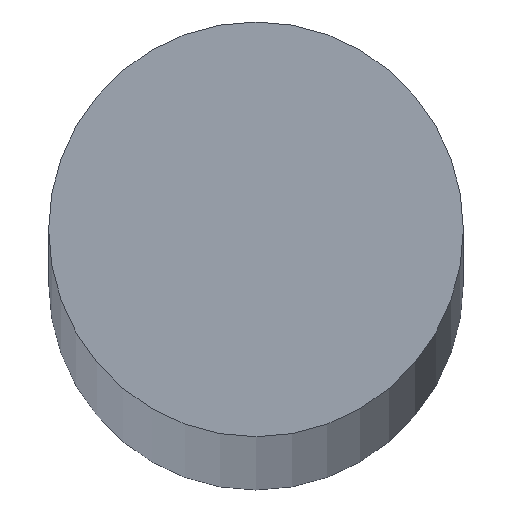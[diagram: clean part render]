
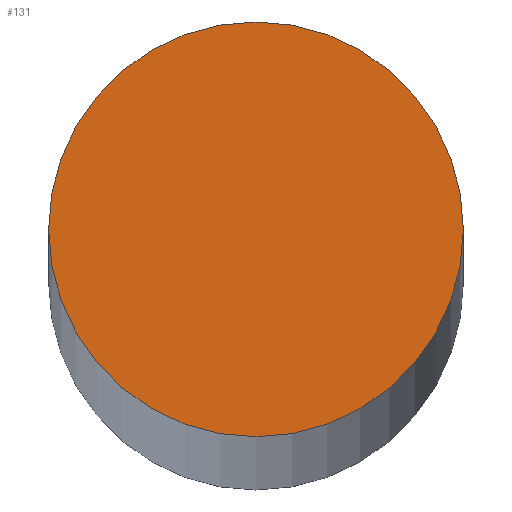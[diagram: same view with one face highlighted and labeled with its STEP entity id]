
A CAD part, top view. The second image highlights one B-rep face of the part: STEP entity #131.
In plain terms, the highlighted planar face has unit normal (0, 0, 1).
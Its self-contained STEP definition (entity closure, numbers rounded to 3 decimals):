
#2 = AXIS2_PLACEMENT_3D ( 'NONE', #9, #17, #18 ) ;
#3 = AXIS2_PLACEMENT_3D ( 'NONE', #19, #21, #22 ) ;
#9 = CARTESIAN_POINT ( 'NONE',  ( 0., 0., 441.5 ) ) ;
#17 = DIRECTION ( 'NONE',  ( 0., 0., 1. ) ) ;
#18 = DIRECTION ( 'NONE',  ( 1., 0., 0. ) ) ;
#19 = CARTESIAN_POINT ( 'NONE',  ( 0., 0., 441.5 ) ) ;
#21 = DIRECTION ( 'NONE',  ( 0., 0., 1. ) ) ;
#22 = DIRECTION ( 'NONE',  ( 1., 0., 0. ) ) ;
#36 = CARTESIAN_POINT ( 'NONE',  ( 0., 0., 441.5 ) ) ;
#37 = PLANE ( 'NONE',  #76 ) ;
#39 = DIRECTION ( 'NONE',  ( 0., 0., 1. ) ) ;
#40 = DIRECTION ( 'NONE',  ( 1., 0., 0. ) ) ;
#41 = CARTESIAN_POINT ( 'NONE',  ( -6., 0., 441.5 ) ) ;
#45 = CARTESIAN_POINT ( 'NONE',  ( 6., 0., 441.5 ) ) ;
#72 = EDGE_CURVE ( 'NONE', #137, #138, #113, .T. ) ;
#76 = AXIS2_PLACEMENT_3D ( 'NONE', #36, #39, #40 ) ;
#80 = EDGE_CURVE ( 'NONE', #138, #137, #115, .T. ) ;
#99 = EDGE_LOOP ( 'NONE', ( #103, #102 ) ) ;
#102 = ORIENTED_EDGE ( 'NONE', *, *, #80, .T. ) ;
#103 = ORIENTED_EDGE ( 'NONE', *, *, #72, .T. ) ;
#113 = CIRCLE ( 'NONE', #2, 6. ) ;
#115 = CIRCLE ( 'NONE', #3, 6. ) ;
#120 = FACE_OUTER_BOUND ( 'NONE', #99, .T. ) ;
#131 = ADVANCED_FACE ( 'NONE', ( #120 ), #37, .T. ) ;
#137 = VERTEX_POINT ( 'NONE', #41 ) ;
#138 = VERTEX_POINT ( 'NONE', #45 ) ;
